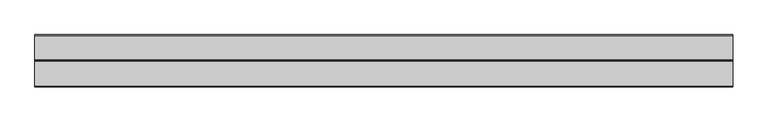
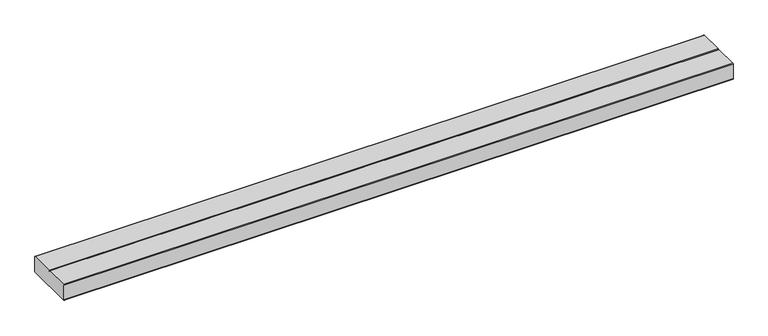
"""IFC4 building model written with IfcOpenShell, lengths in millimetres: duct fitting geometry, Кабель-канал DLP 50x150 - 2 секции - 2 крышки 65 мм - длина 2 м - белый : Кабель-канал DLP 50x150 - 2 секции - 2 крышки 65 мм - длина 2 м - белый."""

from ifc_helpers import new_model, si_unit, point, frame, frame_2d, origin, place, context, project, spatial, polyline, circle_curve, trimmed, segment, composite_curve, outline, extrude, source, transform, mapped, element, save


def duct_fitting_51a21076(model_context):
    return source(origin(), model_context, "Body", "SweptSolid", [
        extrude(outline(composite_curve([segment(trimmed(circle_curve(frame_2d((-2.0, 48.0)), 2.0), [point((-2.0, 50.0))], [point((0.0, 48.0))], False, "CARTESIAN"), True, "CONTINUOUS"), segment(trimmed(circle_curve(frame_2d((2.0, 48.0)), 2.0), [point((0.0, 48.0))], [point((2.0, 50.0))], False, "CARTESIAN"), True, "CONTINUOUS"), segment(polyline([(2.0, 50.0), (73.0, 50.0)]), True, "CONTINUOUS"), segment(trimmed(circle_curve(frame_2d((73.0, 48.0)), 2.0), [point((73.0, 50.0))], [point((75.0, 48.0))], False, "CARTESIAN"), True, "CONTINUOUS"), segment(polyline([(75.0, 48.0), (75.0, 2.0)]), True, "CONTINUOUS"), segment(trimmed(circle_curve(frame_2d((73.0, 2.0)), 2.0), [point((75.0, 2.0))], [point((73.0, 0.0))], False, "CARTESIAN"), True, "CONTINUOUS"), segment(polyline([(73.0, 0.0), (-73.0, 0.0)]), True, "CONTINUOUS"), segment(trimmed(circle_curve(frame_2d((-73.0, 2.0)), 2.0), [point((-73.0, 0.0))], [point((-75.0, 2.0))], False, "CARTESIAN"), True, "CONTINUOUS"), segment(polyline([(-75.0, 2.0), (-75.0, 48.0)]), True, "CONTINUOUS"), segment(trimmed(circle_curve(frame_2d((-73.0, 48.0)), 2.0), [point((-75.0, 48.0))], [point((-73.0, 50.0))], False, "CARTESIAN"), True, "CONTINUOUS"), segment(polyline([(-73.0, 50.0), (-2.0, 50.0)]), True, "CONTINUOUS")], self_intersect=False)), frame((-1000.0, 0.0, 0.0), z_axis=(1.0, 0.0, 0.0), x_axis=(0.0, 1.0, 0.0)), (0.0, 0.0, 1.0), 2000.0),
    ])


if __name__ == "__main__":
    model = new_model("IFC4")
    model_context = context("Model", 3, world=origin())
    ifc_project = project(units=[si_unit("LENGTHUNIT", "METRE", prefix="MILLI")], contexts=[model_context])
    site = spatial("IfcSite", under=ifc_project)
    building = spatial("IfcBuilding", under=site)
    placement = place(None, origin())
    duct_fitting_shape = duct_fitting_51a21076(model_context)
    element("IfcDuctFitting", 1, ObjectType="Кабель-канал DLP 50x150 - 2 секции - 2 крышки 65 мм - длина 2 м - белый : Кабель-канал DLP 50x150 - 2 секции - 2 крышки 65 мм - длина 2 м - белый", at=placement, inside=building, context=model_context, shape_type="MappedRepresentation", body=[
        mapped(duct_fitting_shape, transform((0.0, 0.0, 0.0), x_axis=(1.0, 0.0, 0.0), y_axis=(0.0, 1.0, 0.0), z_axis=(0.0, 0.0, 1.0))),
    ])
    save(model, "model.ifc")
